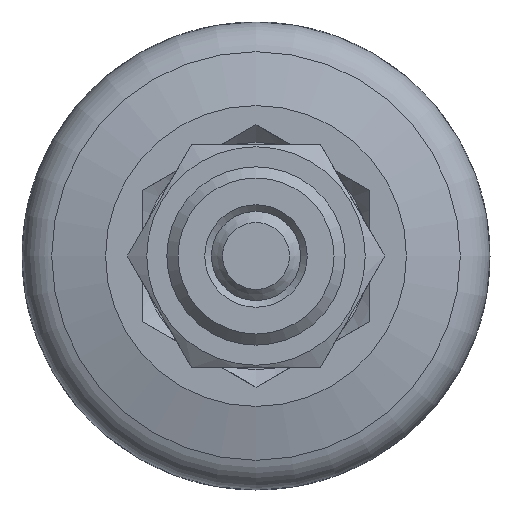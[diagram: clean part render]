
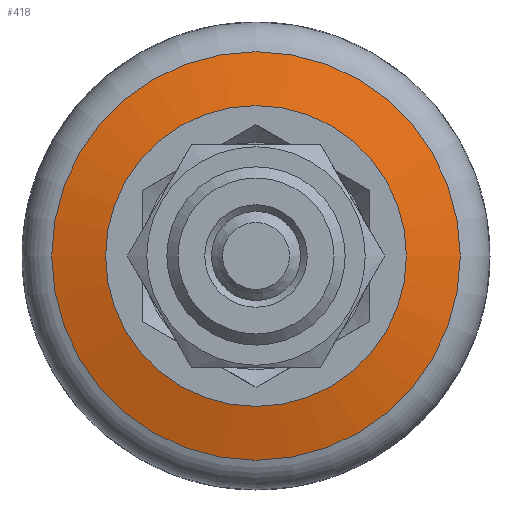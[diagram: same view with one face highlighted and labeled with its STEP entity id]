
A CAD part, front view. The second image highlights one B-rep face of the part: STEP entity #418.
In plain terms, the highlighted conical face has half-angle 75 degrees and reference radius 9.166 mm.
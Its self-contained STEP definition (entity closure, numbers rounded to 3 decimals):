
#418 = ADVANCED_FACE( '', ( #954, #955 ), #956, .T. );
#954 = FACE_BOUND( '', #1556, .T. );
#955 = FACE_OUTER_BOUND( '', #1557, .T. );
#956 = CONICAL_SURFACE( '', #1558, 9.166, 1.309 );
#1556 = EDGE_LOOP( '', ( #3790 ) );
#1557 = EDGE_LOOP( '', ( #3791 ) );
#1558 = AXIS2_PLACEMENT_3D( '', #3792, #3793, #3794 );
#3790 = ORIENTED_EDGE( '', *, *, #4711, .F. );
#3791 = ORIENTED_EDGE( '', *, *, #4710, .T. );
#3792 = CARTESIAN_POINT( '', ( 0., 15.214, 0. ) );
#3793 = DIRECTION( '', ( 0., 1., 0. ) );
#3794 = DIRECTION( '', ( 0., 0., 1. ) );
#4710 = EDGE_CURVE( '', #5973, #5973, #5974, .T. );
#4711 = EDGE_CURVE( '', #5975, #5975, #5976, .T. );
#5973 = VERTEX_POINT( '', #8352 );
#5974 = CIRCLE( '', #8353, 9.166 );
#5975 = VERTEX_POINT( '', #8354 );
#5976 = CIRCLE( '', #8355, 6.75 );
#8352 = CARTESIAN_POINT( '', ( 0., 15.214, -9.166 ) );
#8353 = AXIS2_PLACEMENT_3D( '', #9343, #9344, #9345 );
#8354 = CARTESIAN_POINT( '', ( 0., 14.567, -6.75 ) );
#8355 = AXIS2_PLACEMENT_3D( '', #9346, #9347, #9348 );
#9343 = CARTESIAN_POINT( '', ( 0., 15.214, 0. ) );
#9344 = DIRECTION( '', ( 0., -1., 0. ) );
#9345 = DIRECTION( '', ( 0., 0., -1. ) );
#9346 = CARTESIAN_POINT( '', ( 0., 14.567, 0. ) );
#9347 = DIRECTION( '', ( 0., -1., 0. ) );
#9348 = DIRECTION( '', ( 0., 0., -1. ) );
